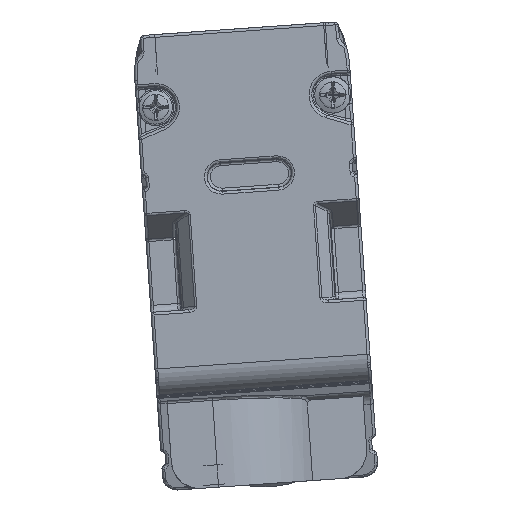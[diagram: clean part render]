
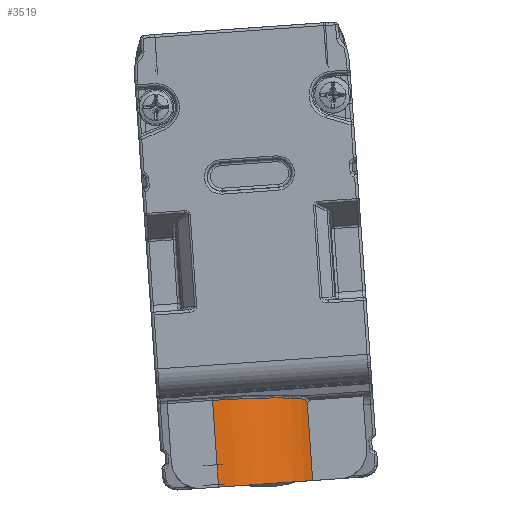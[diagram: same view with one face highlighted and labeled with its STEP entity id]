
A CAD part, front view. The second image highlights one B-rep face of the part: STEP entity #3519.
In plain terms, the highlighted cylindrical face has radius 7.5 mm (diameter 15 mm), a partial arc.
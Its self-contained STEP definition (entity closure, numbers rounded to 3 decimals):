
#296=CYLINDRICAL_SURFACE('',#22870,7.5);
#830=B_SPLINE_CURVE_WITH_KNOTS('',3,(#33718,#33719,#33720,#33721,#33722,
#33723,#33724),.UNSPECIFIED.,.F.,.F.,(4,3,4),(0.,0.485,1.),.UNSPECIFIED.);
#1682=CIRCLE('',#22869,7.5);
#3189=ELLIPSE('',#22868,7.53,7.5);
#3519=ADVANCED_FACE('',(#4873),#296,.T.);
#4873=FACE_OUTER_BOUND('',#5957,.T.);
#5957=EDGE_LOOP('',(#8195,#8196,#8197,#8198,#8199));
#8195=ORIENTED_EDGE('',*,*,#16059,.T.);
#8196=ORIENTED_EDGE('',*,*,#16060,.T.);
#8197=ORIENTED_EDGE('',*,*,#16061,.T.);
#8198=ORIENTED_EDGE('',*,*,#16062,.T.);
#8199=ORIENTED_EDGE('',*,*,#16063,.F.);
#13315=VERTEX_POINT('',#33716);
#13316=VERTEX_POINT('',#33717);
#13317=VERTEX_POINT('',#33725);
#13318=VERTEX_POINT('',#33727);
#13319=VERTEX_POINT('',#33729);
#16059=EDGE_CURVE('',#13315,#13316,#19206,.T.);
#16060=EDGE_CURVE('',#13316,#13317,#830,.T.);
#16061=EDGE_CURVE('',#13317,#13318,#3189,.T.);
#16062=EDGE_CURVE('',#13318,#13319,#19207,.T.);
#16063=EDGE_CURVE('',#13315,#13319,#1682,.T.);
#19206=LINE('',#33715,#20884);
#19207=LINE('',#33728,#20885);
#20884=VECTOR('',#26522,1.);
#20885=VECTOR('',#26525,1.);
#22868=AXIS2_PLACEMENT_3D('',#33726,#26523,#26524);
#22869=AXIS2_PLACEMENT_3D('',#33730,#26526,#26527);
#22870=AXIS2_PLACEMENT_3D('',#33731,#26528,#26529);
#26522=DIRECTION('',(-0.07,0.,0.998));
#26523=DIRECTION('',(0.069,-0.089,-0.994));
#26524=DIRECTION('',(0.006,0.996,-0.089));
#26525=DIRECTION('',(0.07,0.,-0.998));
#26526=DIRECTION('',(0.07,0.,-0.998));
#26527=DIRECTION('',(0.998,0.,0.07));
#26528=DIRECTION('',(0.07,0.,-0.998));
#26529=DIRECTION('',(0.,-1.,0.));
#33715=CARTESIAN_POINT('',(-40.701,-650.597,14.888));
#33716=CARTESIAN_POINT('',(-40.701,-650.597,14.888));
#33717=CARTESIAN_POINT('',(-41.088,-650.597,20.435));
#33718=CARTESIAN_POINT('',(-41.088,-650.597,20.435));
#33719=CARTESIAN_POINT('',(-41.139,-650.686,20.528));
#33720=CARTESIAN_POINT('',(-41.198,-650.793,20.603));
#33721=CARTESIAN_POINT('',(-41.263,-650.905,20.654));
#33722=CARTESIAN_POINT('',(-41.332,-651.024,20.708));
#33723=CARTESIAN_POINT('',(-41.408,-651.152,20.738));
#33724=CARTESIAN_POINT('',(-41.487,-651.278,20.743));
#33725=CARTESIAN_POINT('',(-41.487,-651.278,20.743));
#33726=CARTESIAN_POINT('',(-47.816,-647.318,19.944));
#33727=CARTESIAN_POINT('',(-47.863,-654.818,20.616));
#33728=CARTESIAN_POINT('',(-47.667,-654.818,17.815));
#33729=CARTESIAN_POINT('',(-47.43,-654.818,14.418));
#33730=CARTESIAN_POINT('',(-47.43,-647.318,14.418));
#33731=CARTESIAN_POINT('',(-52.434,-647.318,85.982));
